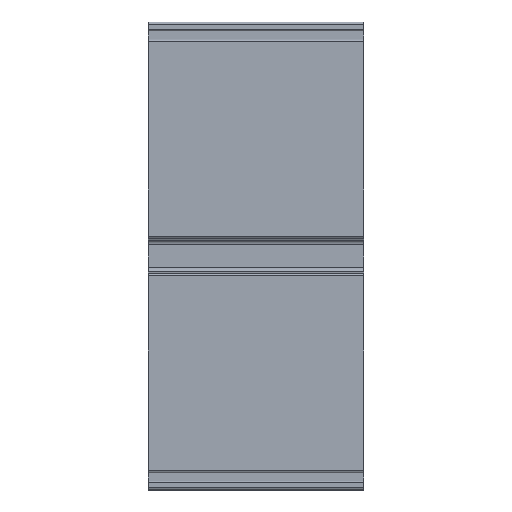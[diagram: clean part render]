
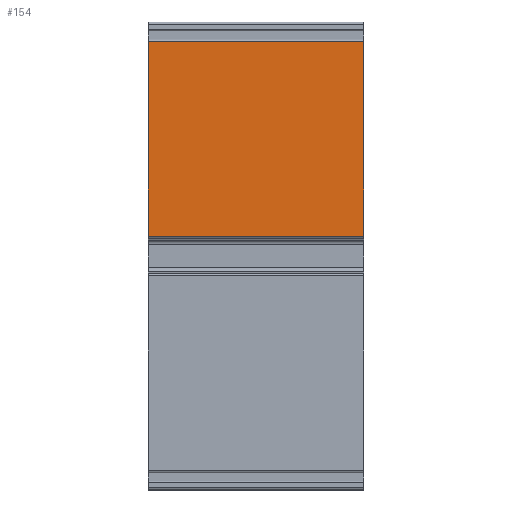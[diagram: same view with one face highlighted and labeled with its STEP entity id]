
A CAD part, top view. The second image highlights one B-rep face of the part: STEP entity #154.
In plain terms, the highlighted planar face has unit normal (0, 0, 1).
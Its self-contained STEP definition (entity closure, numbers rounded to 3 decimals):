
#154 = ADVANCED_FACE ( 'NONE', ( #1732 ), #1741, .F. ) ;
#161 = EDGE_CURVE ( 'NONE', #4083, #228, #1791, .T. ) ;
#228 = VERTEX_POINT ( 'NONE', #1899 ) ;
#230 = EDGE_CURVE ( 'NONE', #237, #228, #1889, .T. ) ;
#231 = EDGE_CURVE ( 'NONE', #4041, #237, #1885, .T. ) ;
#237 = VERTEX_POINT ( 'NONE', #1890 ) ;
#242 = ORIENTED_EDGE ( 'NONE', *, *, #231, .F. ) ;
#292 = ORIENTED_EDGE ( 'NONE', *, *, #4085, .T. ) ;
#293 = ORIENTED_EDGE ( 'NONE', *, *, #230, .F. ) ;
#1732 = FACE_OUTER_BOUND ( 'NONE', #4089, .T. ) ;
#1734 = AXIS2_PLACEMENT_3D ( 'NONE', #1789, #1788, #1787 ) ;
#1741 = PLANE ( 'NONE',  #1734 ) ;
#1778 = DIRECTION ( 'NONE',  ( 0., -1., 0. ) ) ;
#1779 = VECTOR ( 'NONE', #1778, 1000. ) ;
#1787 = DIRECTION ( 'NONE',  ( -1., 0., 0. ) ) ;
#1788 = DIRECTION ( 'NONE',  ( 0., 0., -1. ) ) ;
#1789 = CARTESIAN_POINT ( 'NONE',  ( 100., 99.5, 7.499 ) ) ;
#1790 = CARTESIAN_POINT ( 'NONE',  ( 0., 99.5, 7.499 ) ) ;
#1791 = LINE ( 'NONE', #1790, #1779 ) ;
#1885 = LINE ( 'NONE', #1945, #1944 ) ;
#1886 = DIRECTION ( 'NONE',  ( -1., 0., 0. ) ) ;
#1887 = VECTOR ( 'NONE', #1886, 1000. ) ;
#1888 = CARTESIAN_POINT ( 'NONE',  ( 100., 9.161, 7.499 ) ) ;
#1889 = LINE ( 'NONE', #1888, #1887 ) ;
#1890 = CARTESIAN_POINT ( 'NONE',  ( 100., 9.161, 7.499 ) ) ;
#1899 = CARTESIAN_POINT ( 'NONE',  ( 0., 9.161, 7.499 ) ) ;
#1943 = DIRECTION ( 'NONE',  ( 0., -1., 0. ) ) ;
#1944 = VECTOR ( 'NONE', #1943, 1000. ) ;
#1945 = CARTESIAN_POINT ( 'NONE',  ( 100., 99.5, 7.499 ) ) ;
#3787 = CARTESIAN_POINT ( 'NONE',  ( 100., 99.5, 7.499 ) ) ;
#3887 = VECTOR ( 'NONE', #3892, 1000. ) ;
#3888 = LINE ( 'NONE', #3891, #3887 ) ;
#3891 = CARTESIAN_POINT ( 'NONE',  ( 100., 99.5, 7.499 ) ) ;
#3892 = DIRECTION ( 'NONE',  ( -1., 0., 0. ) ) ;
#3899 = CARTESIAN_POINT ( 'NONE',  ( 0., 99.5, 7.499 ) ) ;
#4041 = VERTEX_POINT ( 'NONE', #3787 ) ;
#4083 = VERTEX_POINT ( 'NONE', #3899 ) ;
#4085 = EDGE_CURVE ( 'NONE', #4041, #4083, #3888, .T. ) ;
#4086 = ORIENTED_EDGE ( 'NONE', *, *, #161, .T. ) ;
#4089 = EDGE_LOOP ( 'NONE', ( #4086, #293, #242, #292 ) ) ;
